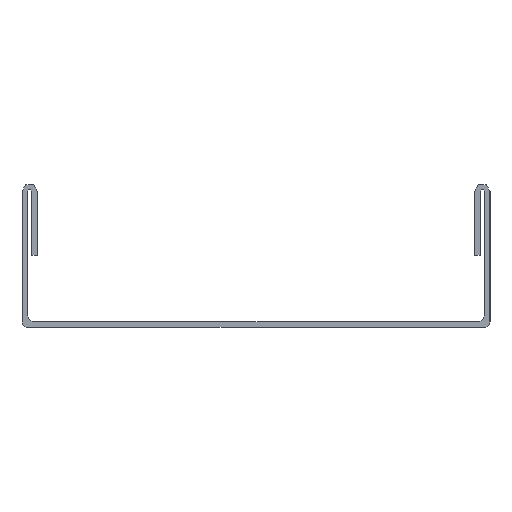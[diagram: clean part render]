
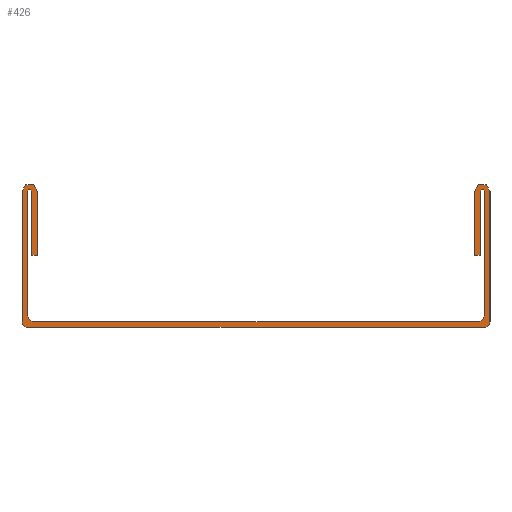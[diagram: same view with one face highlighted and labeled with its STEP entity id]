
A CAD part, left-side view. The second image highlights one B-rep face of the part: STEP entity #426.
In plain terms, the highlighted planar face has unit normal (-1, 0, 0).
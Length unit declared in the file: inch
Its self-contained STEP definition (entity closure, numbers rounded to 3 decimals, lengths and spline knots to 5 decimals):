
#15=CIRCLE('',#451,0.007);
#17=CIRCLE('',#455,0.02);
#19=CIRCLE('',#459,0.02);
#21=CIRCLE('',#463,0.007);
#23=CIRCLE('',#469,0.027);
#25=CIRCLE('',#473,0.02);
#27=CIRCLE('',#477,0.01969);
#29=CIRCLE('',#481,0.027);
#60=FACE_OUTER_BOUND('',#82,.T.);
#82=EDGE_LOOP('',(#371,#372,#373,#374,#375,#376,#377,#378,#379,#380,#381,
#382,#383,#384,#385,#386,#387,#388,#389,#390));
#83=LINE('',#613,#127);
#88=LINE('',#627,#132);
#92=LINE('',#639,#136);
#96=LINE('',#651,#140);
#100=LINE('',#663,#144);
#103=LINE('',#669,#147);
#106=LINE('',#675,#150);
#110=LINE('',#687,#154);
#114=LINE('',#699,#158);
#118=LINE('',#711,#162);
#122=LINE('',#723,#166);
#125=LINE('',#728,#169);
#127=VECTOR('',#491,0.3937);
#132=VECTOR('',#504,0.3937);
#136=VECTOR('',#516,0.3937);
#140=VECTOR('',#528,0.3937);
#144=VECTOR('',#540,0.3937);
#147=VECTOR('',#545,0.3937);
#150=VECTOR('',#550,0.3937);
#154=VECTOR('',#562,0.3937);
#158=VECTOR('',#574,0.3937);
#162=VECTOR('',#586,0.3937);
#166=VECTOR('',#598,0.3937);
#169=VECTOR('',#603,0.3937);
#171=VERTEX_POINT('',#611);
#172=VERTEX_POINT('',#612);
#175=VERTEX_POINT('',#620);
#177=VERTEX_POINT('',#626);
#179=VERTEX_POINT('',#632);
#181=VERTEX_POINT('',#638);
#183=VERTEX_POINT('',#644);
#185=VERTEX_POINT('',#650);
#187=VERTEX_POINT('',#656);
#189=VERTEX_POINT('',#662);
#191=VERTEX_POINT('',#668);
#193=VERTEX_POINT('',#674);
#195=VERTEX_POINT('',#680);
#197=VERTEX_POINT('',#686);
#199=VERTEX_POINT('',#692);
#201=VERTEX_POINT('',#698);
#203=VERTEX_POINT('',#704);
#205=VERTEX_POINT('',#710);
#207=VERTEX_POINT('',#716);
#209=VERTEX_POINT('',#722);
#211=EDGE_CURVE('',#171,#172,#83,.T.);
#215=EDGE_CURVE('',#175,#171,#15,.T.);
#218=EDGE_CURVE('',#177,#175,#88,.T.);
#221=EDGE_CURVE('',#179,#177,#17,.T.);
#224=EDGE_CURVE('',#181,#179,#92,.T.);
#227=EDGE_CURVE('',#183,#181,#19,.T.);
#230=EDGE_CURVE('',#185,#183,#96,.T.);
#233=EDGE_CURVE('',#187,#185,#21,.T.);
#236=EDGE_CURVE('',#189,#187,#100,.T.);
#239=EDGE_CURVE('',#191,#189,#103,.T.);
#242=EDGE_CURVE('',#193,#191,#106,.T.);
#245=EDGE_CURVE('',#195,#193,#23,.T.);
#248=EDGE_CURVE('',#197,#195,#110,.T.);
#251=EDGE_CURVE('',#199,#197,#25,.T.);
#254=EDGE_CURVE('',#201,#199,#114,.T.);
#257=EDGE_CURVE('',#203,#201,#27,.T.);
#260=EDGE_CURVE('',#205,#203,#118,.T.);
#263=EDGE_CURVE('',#207,#205,#29,.T.);
#266=EDGE_CURVE('',#209,#207,#122,.T.);
#269=EDGE_CURVE('',#172,#209,#125,.T.);
#371=ORIENTED_EDGE('',*,*,#269,.F.);
#372=ORIENTED_EDGE('',*,*,#211,.F.);
#373=ORIENTED_EDGE('',*,*,#215,.F.);
#374=ORIENTED_EDGE('',*,*,#218,.F.);
#375=ORIENTED_EDGE('',*,*,#221,.F.);
#376=ORIENTED_EDGE('',*,*,#224,.F.);
#377=ORIENTED_EDGE('',*,*,#227,.F.);
#378=ORIENTED_EDGE('',*,*,#230,.F.);
#379=ORIENTED_EDGE('',*,*,#233,.F.);
#380=ORIENTED_EDGE('',*,*,#236,.F.);
#381=ORIENTED_EDGE('',*,*,#239,.F.);
#382=ORIENTED_EDGE('',*,*,#242,.F.);
#383=ORIENTED_EDGE('',*,*,#245,.F.);
#384=ORIENTED_EDGE('',*,*,#248,.F.);
#385=ORIENTED_EDGE('',*,*,#251,.F.);
#386=ORIENTED_EDGE('',*,*,#254,.F.);
#387=ORIENTED_EDGE('',*,*,#257,.F.);
#388=ORIENTED_EDGE('',*,*,#260,.F.);
#389=ORIENTED_EDGE('',*,*,#263,.F.);
#390=ORIENTED_EDGE('',*,*,#266,.F.);
#404=PLANE('',#486);
#426=ADVANCED_FACE('',(#60),#404,.F.);
#451=AXIS2_PLACEMENT_3D('',#621,#497,#498);
#455=AXIS2_PLACEMENT_3D('',#633,#509,#510);
#459=AXIS2_PLACEMENT_3D('',#645,#521,#522);
#463=AXIS2_PLACEMENT_3D('',#657,#533,#534);
#469=AXIS2_PLACEMENT_3D('',#681,#555,#556);
#473=AXIS2_PLACEMENT_3D('',#693,#567,#568);
#477=AXIS2_PLACEMENT_3D('',#705,#579,#580);
#481=AXIS2_PLACEMENT_3D('',#717,#591,#592);
#486=AXIS2_PLACEMENT_3D('',#731,#607,#608);
#491=DIRECTION('',(0.,0.,-1.));
#497=DIRECTION('center_axis',(-1.,0.,0.));
#498=DIRECTION('ref_axis',(0.,-1.,0.));
#504=DIRECTION('',(0.,0.,1.));
#509=DIRECTION('center_axis',(-1.,0.,0.));
#510=DIRECTION('ref_axis',(0.,1.,0.));
#516=DIRECTION('',(0.,-1.,0.));
#521=DIRECTION('center_axis',(-1.,0.,0.));
#522=DIRECTION('ref_axis',(0.,0.,1.));
#528=DIRECTION('',(0.,0.,-1.));
#533=DIRECTION('center_axis',(-1.,0.,0.));
#534=DIRECTION('ref_axis',(0.,-1.,0.));
#540=DIRECTION('',(0.,0.,1.));
#545=DIRECTION('',(0.,1.,0.));
#550=DIRECTION('',(0.,0.,-1.));
#555=DIRECTION('center_axis',(1.,0.,0.));
#556=DIRECTION('ref_axis',(0.,1.,0.));
#562=DIRECTION('',(0.,0.,1.));
#567=DIRECTION('center_axis',(1.,0.,0.));
#568=DIRECTION('ref_axis',(0.,0.,-1.));
#574=DIRECTION('',(0.,1.,0.));
#579=DIRECTION('center_axis',(1.,0.,0.));
#580=DIRECTION('ref_axis',(0.,-1.,0.));
#586=DIRECTION('',(0.,0.,-1.));
#591=DIRECTION('center_axis',(1.,0.,0.));
#592=DIRECTION('ref_axis',(0.,1.,0.));
#598=DIRECTION('',(0.,0.,1.));
#603=DIRECTION('',(0.,1.,-0.011));
#607=DIRECTION('center_axis',(1.,0.,0.));
#608=DIRECTION('ref_axis',(0.,0.,-1.));
#611=CARTESIAN_POINT('',(0.,1.23973,-0.19718));
#612=CARTESIAN_POINT('',(0.,1.23973,-0.42008));
#613=CARTESIAN_POINT('',(0.,1.23973,-0.19718));
#620=CARTESIAN_POINT('',(0.,1.22573,-0.19718));
#621=CARTESIAN_POINT('Origin',(0.,1.23273,-0.19718));
#626=CARTESIAN_POINT('',(0.,1.22573,-0.63018));
#627=CARTESIAN_POINT('',(0.,1.22573,-0.63018));
#632=CARTESIAN_POINT('',(0.,1.24573,-0.65018));
#633=CARTESIAN_POINT('Origin',(0.,1.24573,-0.63018));
#638=CARTESIAN_POINT('',(0.,2.79073,-0.65018));
#639=CARTESIAN_POINT('',(0.,2.79073,-0.65018));
#644=CARTESIAN_POINT('',(0.,2.81073,-0.63018));
#645=CARTESIAN_POINT('Origin',(0.,2.79073,-0.63018));
#650=CARTESIAN_POINT('',(0.,2.81073,-0.19718));
#651=CARTESIAN_POINT('',(0.,2.81073,-0.19718));
#656=CARTESIAN_POINT('',(0.,2.79673,-0.19718));
#657=CARTESIAN_POINT('Origin',(0.,2.80373,-0.19718));
#662=CARTESIAN_POINT('',(0.,2.79673,-0.42018));
#663=CARTESIAN_POINT('',(0.,2.79673,-0.42018));
#668=CARTESIAN_POINT('',(0.,2.77673,-0.42018));
#669=CARTESIAN_POINT('',(0.,2.77673,-0.42018));
#674=CARTESIAN_POINT('',(0.,2.77673,-0.19718));
#675=CARTESIAN_POINT('',(0.,2.77673,-0.19718));
#680=CARTESIAN_POINT('',(0.,2.83073,-0.19718));
#681=CARTESIAN_POINT('Origin',(0.,2.80373,-0.19718));
#686=CARTESIAN_POINT('',(0.,2.83073,-0.65018));
#687=CARTESIAN_POINT('',(0.,2.83073,-0.65018));
#692=CARTESIAN_POINT('',(0.,2.81073,-0.67018));
#693=CARTESIAN_POINT('Origin',(0.,2.81073,-0.65018));
#698=CARTESIAN_POINT('',(0.,1.22542,-0.67018));
#699=CARTESIAN_POINT('',(0.,1.22542,-0.67018));
#704=CARTESIAN_POINT('',(0.,1.20573,-0.6505));
#705=CARTESIAN_POINT('Origin',(0.,1.22542,-0.6505));
#710=CARTESIAN_POINT('',(0.,1.20573,-0.19718));
#711=CARTESIAN_POINT('',(0.,1.20573,-0.19718));
#716=CARTESIAN_POINT('',(0.,1.25973,-0.19718));
#717=CARTESIAN_POINT('Origin',(0.,1.23273,-0.19718));
#722=CARTESIAN_POINT('',(0.,1.25973,-0.42029));
#723=CARTESIAN_POINT('',(0.,1.25973,-0.42029));
#728=CARTESIAN_POINT('',(0.,1.23973,-0.42008));
#731=CARTESIAN_POINT('Origin',(0.,2.01823,-0.42018));
